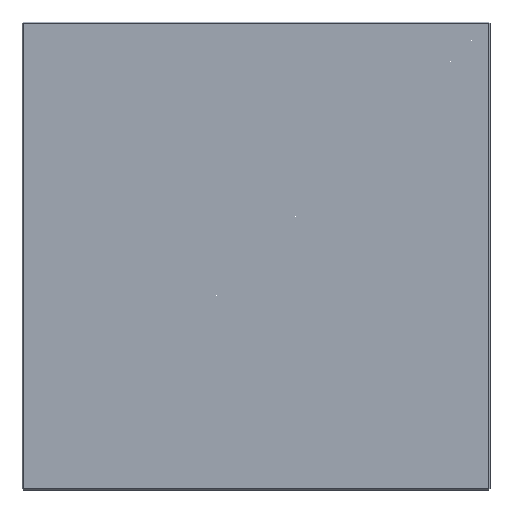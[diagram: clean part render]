
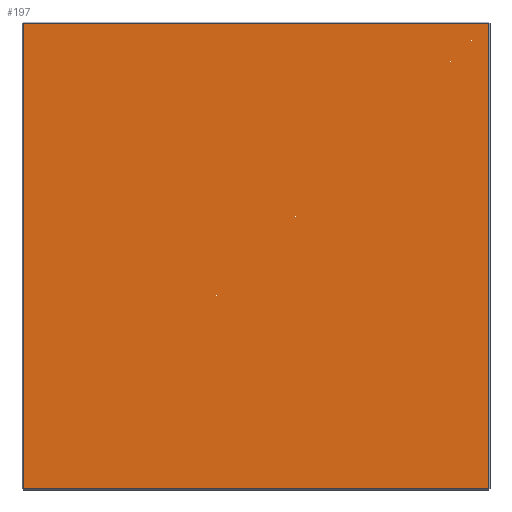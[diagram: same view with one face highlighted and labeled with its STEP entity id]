
A CAD part, front view. The second image highlights one B-rep face of the part: STEP entity #197.
In plain terms, the highlighted planar face has unit normal (0, -1, 0).
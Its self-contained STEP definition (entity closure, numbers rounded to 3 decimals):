
#13 = EDGE_CURVE ( 'NONE', #642, #556, #612, .T. ) ;
#32 = LINE ( 'NONE', #148, #183 ) ;
#81 = LINE ( 'NONE', #335, #435 ) ;
#108 = AXIS2_PLACEMENT_3D ( 'NONE', #409, #277, #167 ) ;
#114 = VECTOR ( 'NONE', #584, 1000. ) ;
#118 = CARTESIAN_POINT ( 'NONE',  ( 222., 0., 0. ) ) ;
#126 = DIRECTION ( 'NONE',  ( 0., 0., 1. ) ) ;
#148 = CARTESIAN_POINT ( 'NONE',  ( -222., 0., 0. ) ) ;
#167 = DIRECTION ( 'NONE',  ( 0., 0., 1. ) ) ;
#183 = VECTOR ( 'NONE', #505, 1000. ) ;
#197 = ADVANCED_FACE ( 'NONE', ( #241 ), #461, .F. ) ;
#241 = FACE_OUTER_BOUND ( 'NONE', #394, .T. ) ;
#266 = EDGE_CURVE ( 'NONE', #588, #642, #398, .T. ) ;
#277 = DIRECTION ( 'NONE',  ( 0., 1., 0. ) ) ;
#282 = DIRECTION ( 'NONE',  ( -1., 0., 0. ) ) ;
#289 = CARTESIAN_POINT ( 'NONE',  ( 222., 0., 222. ) ) ;
#290 = ORIENTED_EDGE ( 'NONE', *, *, #13, .T. ) ;
#330 = ORIENTED_EDGE ( 'NONE', *, *, #473, .T. ) ;
#335 = CARTESIAN_POINT ( 'NONE',  ( 0., 0., 222. ) ) ;
#394 = EDGE_LOOP ( 'NONE', ( #290, #559, #330, #607 ) ) ;
#398 = LINE ( 'NONE', #527, #114 ) ;
#402 = EDGE_CURVE ( 'NONE', #556, #622, #81, .T. ) ;
#409 = CARTESIAN_POINT ( 'NONE',  ( 0., 0., 0. ) ) ;
#435 = VECTOR ( 'NONE', #282, 1000. ) ;
#461 = PLANE ( 'NONE',  #108 ) ;
#473 = EDGE_CURVE ( 'NONE', #622, #588, #32, .T. ) ;
#492 = CARTESIAN_POINT ( 'NONE',  ( 222., 0., -222. ) ) ;
#505 = DIRECTION ( 'NONE',  ( 0., 0., -1. ) ) ;
#527 = CARTESIAN_POINT ( 'NONE',  ( 0., 0., -222. ) ) ;
#556 = VERTEX_POINT ( 'NONE', #289 ) ;
#559 = ORIENTED_EDGE ( 'NONE', *, *, #402, .T. ) ;
#561 = CARTESIAN_POINT ( 'NONE',  ( -222., 0., 222. ) ) ;
#567 = VECTOR ( 'NONE', #126, 1000. ) ;
#584 = DIRECTION ( 'NONE',  ( 1., 0., 0. ) ) ;
#588 = VERTEX_POINT ( 'NONE', #601 ) ;
#601 = CARTESIAN_POINT ( 'NONE',  ( -222., 0., -222. ) ) ;
#607 = ORIENTED_EDGE ( 'NONE', *, *, #266, .T. ) ;
#612 = LINE ( 'NONE', #118, #567 ) ;
#622 = VERTEX_POINT ( 'NONE', #561 ) ;
#642 = VERTEX_POINT ( 'NONE', #492 ) ;
